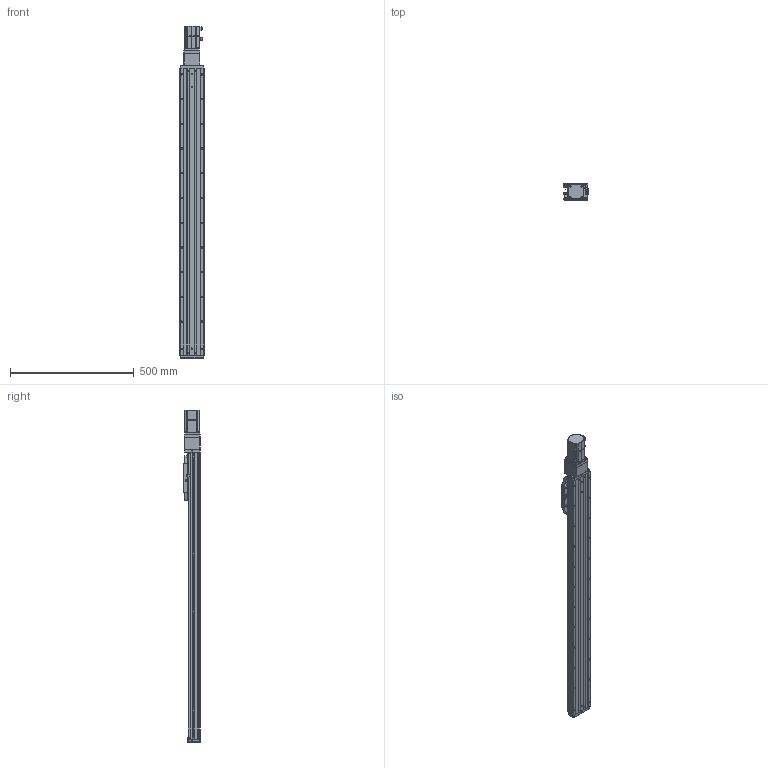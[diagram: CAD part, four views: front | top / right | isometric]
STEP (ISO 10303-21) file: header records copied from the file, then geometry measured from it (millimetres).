
FILE_DESCRIPTION (( 'STEP AP203' ), '1' );
FILE_NAME ('CTHA100-950-BC-M20-C4L.step', '2022-07-06T08:54:21', ( '微软用户' ), ( '微软中国' ), 'SwSTEP 2.0', 'SolidWorks 2020', '' );
FILE_SCHEMA (( 'CONFIG_CONTROL_DESIGN' ));
Length unit declared in the file: millimetre
Products named in the file (20): GBT 70.1-M3℅6; GBT 70.3-M3℅6; KTHA100-005; GBT70.1 M5℅16; CTHA100-002; GB¨uT 70.2-M3¡Á5_M3¡Á6; CTHA60-016; CTHA100-031; EE_SX911P_R; _X2_4E0983F1_X0_200W_1; CTHA86-030; CTHA60-017; CTHA86-013; CTHA100-950-BC-M20-C4L; CTHA60-021; CTHA86-027; KTHA100-001_1160; GBT77-2000 M3×3; CTHA86-006-1_CTHA86-006-2; KTHA100-004
Assembly tree (63 placements, depth 2):
  CTHA100-950-BC-M20-C4L
    KTHA100-001_1160
    KTHA100-004
    KTHA100-005
    GB¨uT 70.2-M3¡Á5_M3¡Á6  x10
    EE_SX911P_R  x3
    CTHA60-017  x3
    CTHA60-021  x2
    GBT77-2000 M3×3  x6
    GBT 70.1-M3℅6  x6
    GBT70.1 M5℅16  x14
    CTHA60-016  x2
    _X2_4E0983F1_X0_200W_1
    CTHA86-013
    CTHA86-027
    CTHA86-006-1_CTHA86-006-2
    GBT 70.3-M3℅6  x6
    CTHA100-002
    CTHA100-031
    CTHA86-030  x2
Bounding box: 98.82 x 68 x 1342.5 mm (x, y, z)
Volume: 4746950.5 mm3; surface area: 800230.9 mm2
Topology: 65 solids, 65 shells, 2719 faces, 6550 edges, 4048 vertices
Faces by surface type: plane 1423, cylinder 709, cone 382, torus 112, bspline 69, sphere 24
Entity records: 48226 total; most frequent: CARTESIAN_POINT 9010, DIRECTION 7591, ORIENTED_EDGE 7372, EDGE_CURVE 3686, AXIS2_PLACEMENT_3D 2565, LINE 2461, VECTOR 2461, VERTEX_POINT 2326
